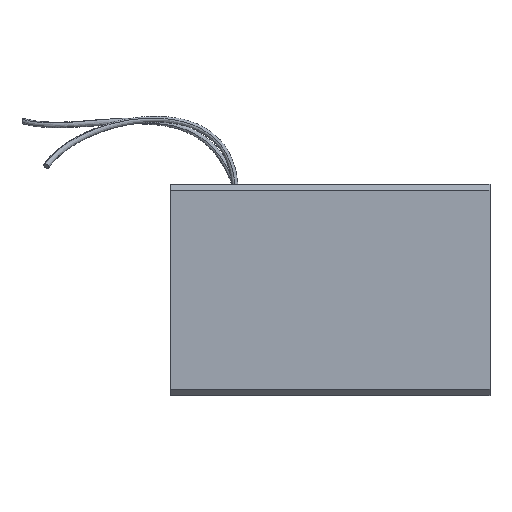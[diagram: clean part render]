
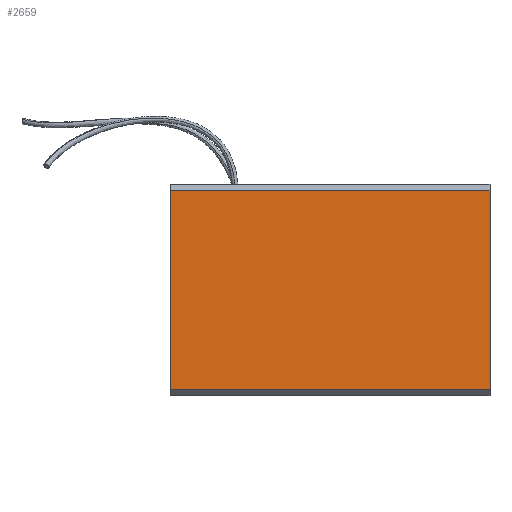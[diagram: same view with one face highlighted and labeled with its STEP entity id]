
A CAD part, top view. The second image highlights one B-rep face of the part: STEP entity #2659.
In plain terms, the highlighted planar face has unit normal (0, 0, 1).
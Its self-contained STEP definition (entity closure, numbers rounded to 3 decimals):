
#57 = VERTEX_POINT ( 'NONE', #2987 ) ;
#93 = DIRECTION ( 'NONE',  ( 1., 0., 0. ) ) ;
#196 = DIRECTION ( 'NONE',  ( 0., -1., 0. ) ) ;
#225 = VERTEX_POINT ( 'NONE', #1973 ) ;
#339 = LINE ( 'NONE', #3120, #1603 ) ;
#441 = CARTESIAN_POINT ( 'NONE',  ( 0., -16.5, 17.5 ) ) ;
#458 = EDGE_LOOP ( 'NONE', ( #1112, #497, #2232, #1038 ) ) ;
#497 = ORIENTED_EDGE ( 'NONE', *, *, #2373, .T. ) ;
#536 = DIRECTION ( 'NONE',  ( 0., -1., 0. ) ) ;
#920 = LINE ( 'NONE', #2567, #2181 ) ;
#1038 = ORIENTED_EDGE ( 'NONE', *, *, #2516, .T. ) ;
#1105 = LINE ( 'NONE', #3012, #3041 ) ;
#1112 = ORIENTED_EDGE ( 'NONE', *, *, #2003, .T. ) ;
#1603 = VECTOR ( 'NONE', #536, 1000. ) ;
#1703 = VECTOR ( 'NONE', #2456, 1000. ) ;
#1935 = VERTEX_POINT ( 'NONE', #441 ) ;
#1973 = CARTESIAN_POINT ( 'NONE',  ( 53., 16.5, 17.5 ) ) ;
#2003 = EDGE_CURVE ( 'NONE', #57, #1935, #339, .T. ) ;
#2081 = DIRECTION ( 'NONE',  ( -1., 0., 0. ) ) ;
#2181 = VECTOR ( 'NONE', #196, 1000. ) ;
#2197 = DIRECTION ( 'NONE',  ( 0., 0., -1. ) ) ;
#2232 = ORIENTED_EDGE ( 'NONE', *, *, #3040, .F. ) ;
#2285 = CARTESIAN_POINT ( 'NONE',  ( 53., -17.5, 17.5 ) ) ;
#2373 = EDGE_CURVE ( 'NONE', #1935, #3038, #1105, .T. ) ;
#2377 = CARTESIAN_POINT ( 'NONE',  ( 53., 16.5, 17.5 ) ) ;
#2440 = PLANE ( 'NONE',  #3069 ) ;
#2456 = DIRECTION ( 'NONE',  ( -1., 0., 0. ) ) ;
#2516 = EDGE_CURVE ( 'NONE', #225, #57, #3077, .T. ) ;
#2567 = CARTESIAN_POINT ( 'NONE',  ( 53., -17.5, 17.5 ) ) ;
#2659 = ADVANCED_FACE ( 'NONE', ( #3209 ), #2440, .F. ) ;
#2790 = CARTESIAN_POINT ( 'NONE',  ( 53., -16.5, 17.5 ) ) ;
#2987 = CARTESIAN_POINT ( 'NONE',  ( 0., 16.5, 17.5 ) ) ;
#3012 = CARTESIAN_POINT ( 'NONE',  ( 53., -16.5, 17.5 ) ) ;
#3038 = VERTEX_POINT ( 'NONE', #2790 ) ;
#3040 = EDGE_CURVE ( 'NONE', #225, #3038, #920, .T. ) ;
#3041 = VECTOR ( 'NONE', #93, 1000. ) ;
#3069 = AXIS2_PLACEMENT_3D ( 'NONE', #2285, #2197, #2081 ) ;
#3077 = LINE ( 'NONE', #2377, #1703 ) ;
#3120 = CARTESIAN_POINT ( 'NONE',  ( 0., -17.5, 17.5 ) ) ;
#3209 = FACE_OUTER_BOUND ( 'NONE', #458, .T. ) ;
